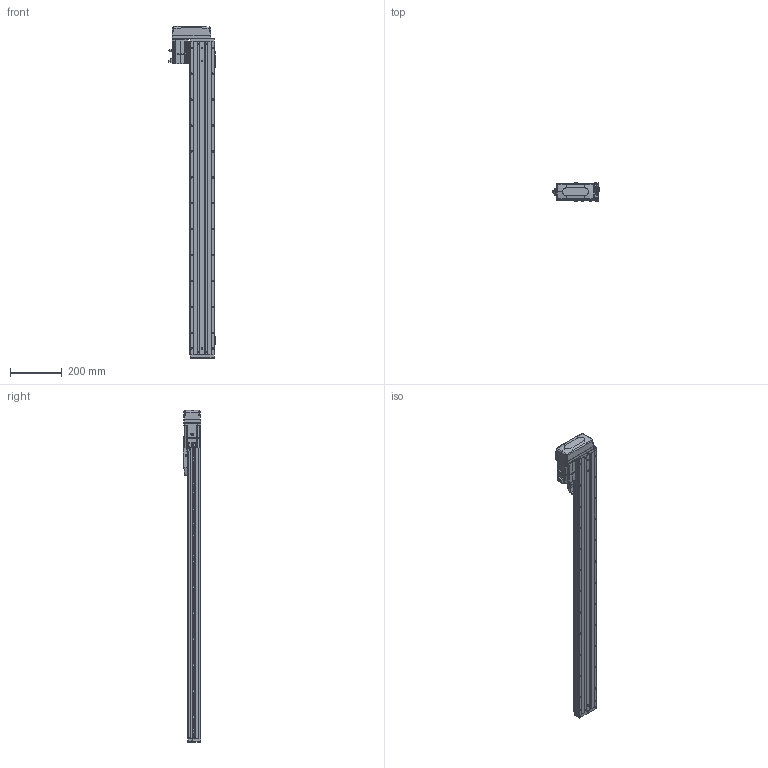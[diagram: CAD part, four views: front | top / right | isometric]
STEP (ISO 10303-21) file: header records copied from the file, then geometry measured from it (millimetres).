
FILE_DESCRIPTION (( 'STEP AP203' ), '1' );
FILE_NAME ('CTHA100-1000-BL-M20-C4L.step', '2022-07-06T09:07:14', ( '微软用户' ), ( '微软中国' ), 'SwSTEP 2.0', 'SolidWorks 2020', '' );
FILE_SCHEMA (( 'CONFIG_CONTROL_DESIGN' ));
Length unit declared in the file: millimetre
Products named in the file (19): CTHA60-017; CTHA100-002; CTHA60-021; CTHA100-031; KTHA100-001_1210; GBT77-2000 M3×3; CTHA86-030; KTHA100-004; GBT 70.1-M3℅6; GBT 70.3-M3℅6; KTHA100-005; GBT70.1 M5℅16; CTHA86-015-1_CTHA86-015-2; GB¨uT 70.2-M3¡Á5_M3¡Á6; CTHA60-016; CTHA86-033; EE_SX911P_R; _X2_4E0983F1_X0_200W_1; CTHA100-1000-BL-M20-C4L
Assembly tree (64 placements, depth 2):
  CTHA100-1000-BL-M20-C4L
    KTHA100-001_1210
    KTHA100-004
    KTHA100-005
    GB¨uT 70.2-M3¡Á5_M3¡Á6  x10
    EE_SX911P_R  x3
    CTHA60-017  x3
    CTHA60-021  x2
    GBT77-2000 M3×3  x6
    GBT 70.1-M3℅6  x10
    GBT70.1 M5℅16  x14
    CTHA60-016  x2
    _X2_4E0983F1_X0_200W_1
    CTHA100-002
    CTHA100-031
    CTHA86-030  x2
    GBT 70.3-M3℅6  x4
    CTHA86-015-1_CTHA86-015-2
    CTHA86-033
Bounding box: 178.52 x 68 x 1281 mm (x, y, z)
Volume: 5080246 mm3; surface area: 839145.2 mm2
Topology: 66 solids, 66 shells, 2769 faces, 6695 edges, 4156 vertices
Faces by surface type: plane 1452, cylinder 731, cone 363, torus 124, bspline 75, sphere 24
Entity records: 49222 total; most frequent: CARTESIAN_POINT 9595, DIRECTION 7644, ORIENTED_EDGE 7506, EDGE_CURVE 3753, AXIS2_PLACEMENT_3D 2577, VECTOR 2490, LINE 2490, VERTEX_POINT 2376
